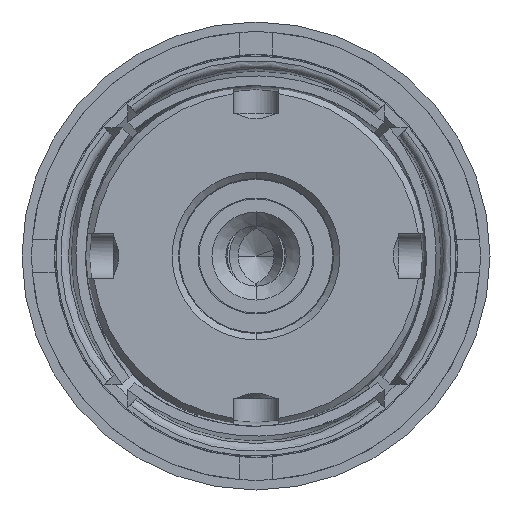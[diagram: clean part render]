
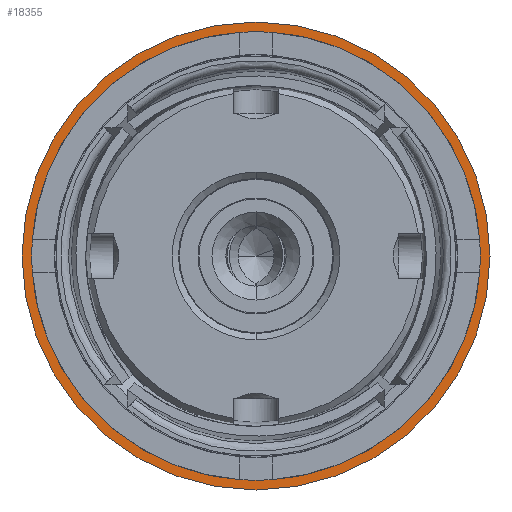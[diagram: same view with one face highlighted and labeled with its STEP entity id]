
A CAD part, front view. The second image highlights one B-rep face of the part: STEP entity #18355.
In plain terms, the highlighted planar face has unit normal (0, -1, 0).
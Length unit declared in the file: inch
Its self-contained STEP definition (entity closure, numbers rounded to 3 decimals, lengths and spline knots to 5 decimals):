
#15049=CARTESIAN_POINT('',(0.,0.037,0.));
#15050=DIRECTION('',(0.,1.,0.));
#15051=DIRECTION('',(1.,0.,0.));
#15052=AXIS2_PLACEMENT_3D('',#15049,#15050,#15051);
#15395=CARTESIAN_POINT('',(0.,0.037,0.));
#15396=DIRECTION('',(0.,1.,0.));
#15397=DIRECTION('',(-1.,0.,0.));
#15398=AXIS2_PLACEMENT_3D('',#15395,#15396,#15397);
#16317=CARTESIAN_POINT('',(0.,0.037,0.));
#16318=DIRECTION('',(0.,1.,0.));
#16319=DIRECTION('',(0.,0.,-1.));
#16320=AXIS2_PLACEMENT_3D('',#16317,#16318,#16319);
#16325=CARTESIAN_POINT('',(0.,0.037,0.));
#16326=DIRECTION('',(0.,-1.,0.));
#16327=DIRECTION('',(0.,0.,-1.));
#16328=AXIS2_PLACEMENT_3D('',#16325,#16326,#16327);
#16513=CARTESIAN_POINT('',(0.,0.037,-0.1435));
#16515=VERTEX_POINT('',#16513);
#16537=CARTESIAN_POINT('',(0.,0.037,0.1435));
#16539=VERTEX_POINT('',#16537);
#16581=CARTESIAN_POINT('',(0.1375,0.037,0.));
#16582=CARTESIAN_POINT('',(-0.1375,0.037,0.));
#16583=VERTEX_POINT('',#16581);
#16584=VERTEX_POINT('',#16582);
#18342=CARTESIAN_POINT('',(0.,0.037,0.));
#18343=DIRECTION('',(0.,-1.,0.));
#18344=DIRECTION('',(0.,0.,1.));
#18345=AXIS2_PLACEMENT_3D('',#18342,#18343,#18344);
#18346=PLANE('',#18345);
#18347=ORIENTED_EDGE('',*,*,#18328,.F.);
#18348=ORIENTED_EDGE('',*,*,#18310,.T.);
#18349=EDGE_LOOP('',(#18347,#18348));
#18350=FACE_OUTER_BOUND('',#18349,.F.);
#18351=ORIENTED_EDGE('',*,*,#16748,.F.);
#18352=ORIENTED_EDGE('',*,*,#17015,.F.);
#18353=EDGE_LOOP('',(#18351,#18352));
#18354=FACE_BOUND('',#18353,.F.);
#18355=ADVANCED_FACE('',(#18350,#18354),#18346,.T.);
#15053=CIRCLE('',#15052,0.1375);
#15399=CIRCLE('',#15398,0.1375);
#16321=CIRCLE('',#16320,0.1435);
#16329=CIRCLE('',#16328,0.1435);
#16748=EDGE_CURVE('',#16583,#16584,#15053,.T.);
#17015=EDGE_CURVE('',#16584,#16583,#15399,.T.);
#18310=EDGE_CURVE('',#16515,#16539,#16321,.T.);
#18328=EDGE_CURVE('',#16515,#16539,#16329,.T.);
